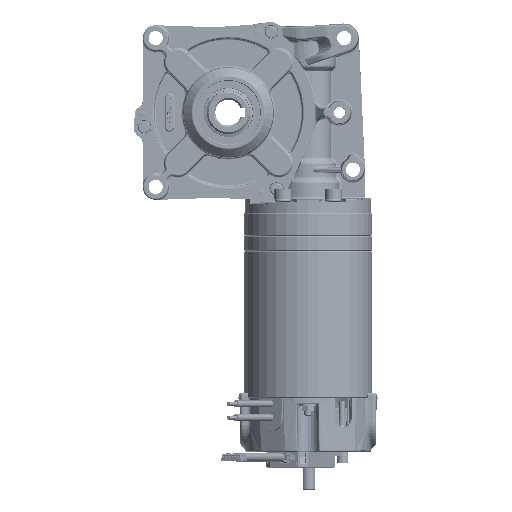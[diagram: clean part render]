
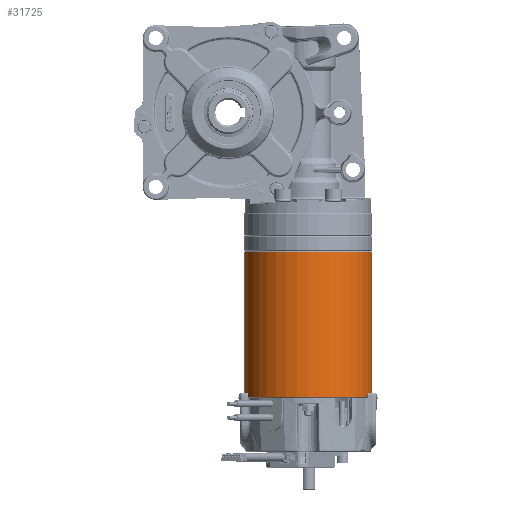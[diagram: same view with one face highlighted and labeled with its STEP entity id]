
A CAD part, left-side view. The second image highlights one B-rep face of the part: STEP entity #31725.
In plain terms, the highlighted cylindrical face has radius 37 mm (diameter 74 mm), a partial arc.
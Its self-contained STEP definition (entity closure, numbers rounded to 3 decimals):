
#2506 = ORIENTED_EDGE ( 'NONE', *, *, #155952, .T. ) ;
#4853 = DIRECTION ( 'NONE',  ( 0.169, -0.986, 0. ) ) ;
#22446 = ORIENTED_EDGE ( 'NONE', *, *, #295604, .T. ) ;
#31725 = ADVANCED_FACE ( 'NONE', ( #310827 ), #123140, .T. ) ;
#37661 = CARTESIAN_POINT ( 'NONE',  ( -120.552, -96.752, 19.184 ) ) ;
#40056 = DIRECTION ( 'NONE',  ( 0., 0., -1. ) ) ;
#61877 = AXIS2_PLACEMENT_3D ( 'NONE', #287226, #40056, #117796 ) ;
#70647 = ORIENTED_EDGE ( 'NONE', *, *, #91058, .F. ) ;
#77584 = LINE ( 'NONE', #218297, #101715 ) ;
#91058 = EDGE_CURVE ( 'NONE', #216053, #347200, #77584, .T. ) ;
#101715 = VECTOR ( 'NONE', #299506, 1000. ) ;
#116555 = DIRECTION ( 'NONE',  ( 0.169, -0.986, 0. ) ) ;
#117796 = DIRECTION ( 'NONE',  ( 0.169, -0.986, 0. ) ) ;
#119862 = CIRCLE ( 'NONE', #263699, 37. ) ;
#123140 = CYLINDRICAL_SURFACE ( 'NONE', #61877, 37. ) ;
#155952 = EDGE_CURVE ( 'NONE', #238591, #347200, #119862, .T. ) ;
#187180 = EDGE_LOOP ( 'NONE', ( #289979, #22446, #2506, #70647 ) ) ;
#194200 = CARTESIAN_POINT ( 'NONE',  ( -126.805, -60.285, -64.816 ) ) ;
#197936 = DIRECTION ( 'NONE',  ( 0., 0., -1. ) ) ;
#216053 = VERTEX_POINT ( 'NONE', #37661 ) ;
#218297 = CARTESIAN_POINT ( 'NONE',  ( -120.552, -96.752, 19.684 ) ) ;
#222263 = AXIS2_PLACEMENT_3D ( 'NONE', #250292, #197936, #4853 ) ;
#235692 = CARTESIAN_POINT ( 'NONE',  ( -133.058, -23.817, 19.184 ) ) ;
#236860 = VECTOR ( 'NONE', #241456, 1000. ) ;
#238591 = VERTEX_POINT ( 'NONE', #261482 ) ;
#241456 = DIRECTION ( 'NONE',  ( 0., 0., -1. ) ) ;
#243225 = LINE ( 'NONE', #349926, #236860 ) ;
#250056 = DIRECTION ( 'NONE',  ( 0., 0., 1. ) ) ;
#250292 = CARTESIAN_POINT ( 'NONE',  ( -126.805, -60.285, 19.184 ) ) ;
#259044 = VERTEX_POINT ( 'NONE', #235692 ) ;
#261482 = CARTESIAN_POINT ( 'NONE',  ( -133.058, -23.817, -64.816 ) ) ;
#262118 = CARTESIAN_POINT ( 'NONE',  ( -120.552, -96.752, -64.816 ) ) ;
#263699 = AXIS2_PLACEMENT_3D ( 'NONE', #194200, #250056, #116555 ) ;
#287226 = CARTESIAN_POINT ( 'NONE',  ( -126.805, -60.285, 19.684 ) ) ;
#289979 = ORIENTED_EDGE ( 'NONE', *, *, #323952, .T. ) ;
#295604 = EDGE_CURVE ( 'NONE', #259044, #238591, #243225, .T. ) ;
#299506 = DIRECTION ( 'NONE',  ( 0., 0., -1. ) ) ;
#310827 = FACE_OUTER_BOUND ( 'NONE', #187180, .T. ) ;
#323952 = EDGE_CURVE ( 'NONE', #216053, #259044, #343092, .T. ) ;
#343092 = CIRCLE ( 'NONE', #222263, 37. ) ;
#347200 = VERTEX_POINT ( 'NONE', #262118 ) ;
#349926 = CARTESIAN_POINT ( 'NONE',  ( -133.058, -23.817, 19.684 ) ) ;
